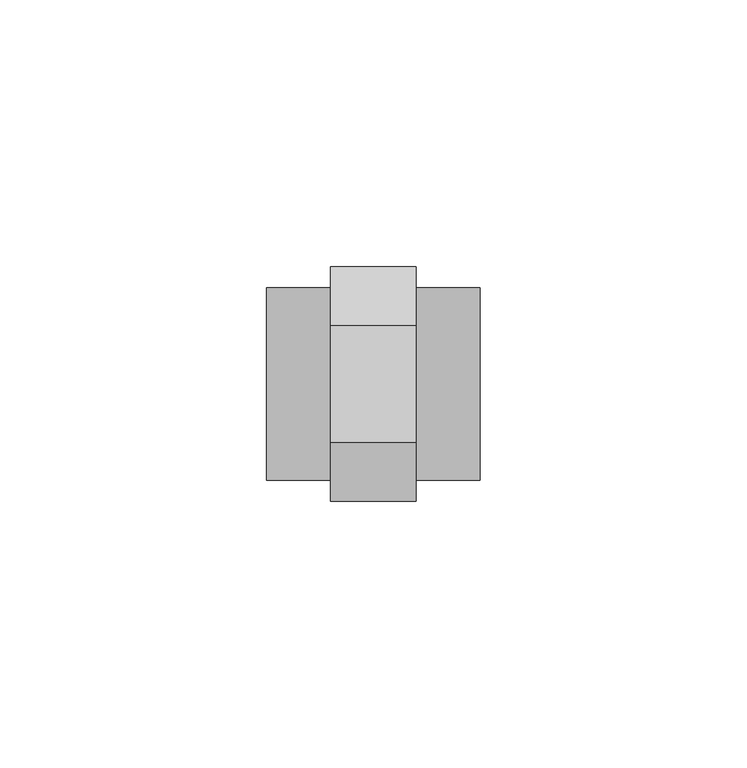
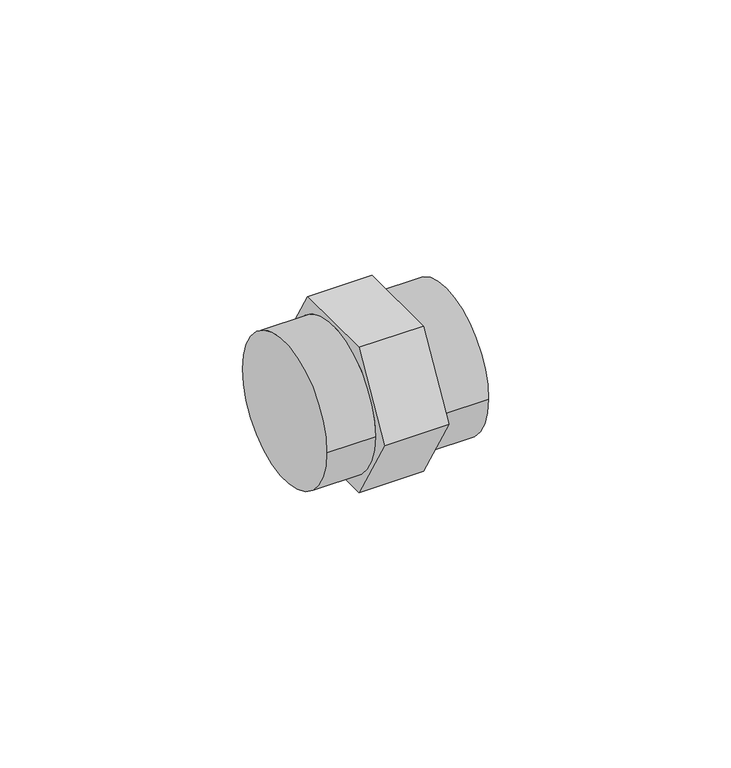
"""IFC4 building model written with IfcOpenShell, lengths in millimetres: pipe fitting geometry, 01101007 : Manguitos H/H."""

from ifc_helpers import new_model, si_unit, frame, origin, place, context, project, spatial, circle_curve, source, transform, mapped, element, save
from ifc_brep_helpers import plane_surface, cylinder_surface, advanced_brep


def pipe_fitting_64031ad3(model_context):
    return source(origin(), model_context, "Body", "AdvancedBrep", [
        advanced_brep(
        [(8.0, -10.9696551, 19.0), (8.0, -21.9393102, 0.0), (8.0, -10.9696551, -19.0), (8.0, 10.9696551, -19.0), (8.0, 21.9393102, 0.0), (8.0, 10.9696551, 19.0), (8.0, -18.05, 0.0), (8.0, 18.05, 0.0), (-8.0, -10.9696551, 19.0), (-8.0, 10.9696551, 19.0), (-8.0, 21.9393102, 0.0), (-8.0, 10.9696551, -19.0), (-8.0, -10.9696551, -19.0), (-8.0, -21.9393102, 0.0), (-8.0, 18.05, 0.0), (-8.0, -18.05, 0.0), (-20.0, -18.05, 0.0), (-20.0, 18.05, 0.0), (20.0, -18.05, 0.0), (20.0, 18.05, 0.0)],
        [
            (0, 1),
            (1, 2),
            (2, 3),
            (3, 4),
            (4, 5),
            (5, 0),
            (6, 7, circle_curve(frame((8.0, 0.0, 0.0), z_axis=(-1.0, 0.0, 0.0), x_axis=(0.0, 1.0, 0.0)), 18.05)),
            (7, 6, circle_curve(frame((8.0, 0.0, 0.0), z_axis=(-1.0, 0.0, 0.0), x_axis=(0.0, 1.0, 0.0)), 18.05)),
            (8, 9),
            (9, 10),
            (10, 11),
            (11, 12),
            (12, 13),
            (13, 8),
            (14, 15, circle_curve(frame((-8.0, 0.0, 0.0), z_axis=(1.0, 0.0, 0.0), x_axis=(0.0, 1.0, 0.0)), 18.05)),
            (15, 14, circle_curve(frame((-8.0, 0.0, 0.0), z_axis=(1.0, 0.0, 0.0), x_axis=(0.0, 1.0, 0.0)), 18.05)),
            (0, 8),
            (13, 1),
            (12, 2),
            (11, 3),
            (10, 4),
            (9, 5),
            (16, 17, circle_curve(frame((-20.0, 0.0, 0.0), z_axis=(-1.0, 0.0, 0.0), x_axis=(0.0, 1.0, 0.0)), 18.05)),
            (17, 16, circle_curve(frame((-20.0, 0.0, 0.0), z_axis=(-1.0, 0.0, 0.0), x_axis=(0.0, 1.0, 0.0)), 18.05)),
            (18, 19, circle_curve(frame((20.0, 0.0, 0.0), z_axis=(1.0, 0.0, 0.0), x_axis=(0.0, 1.0, 0.0)), 18.05)),
            (19, 18, circle_curve(frame((20.0, 0.0, 0.0), z_axis=(1.0, 0.0, 0.0), x_axis=(0.0, 1.0, 0.0)), 18.05)),
            (16, 15),
            (14, 17),
            (19, 7),
            (6, 18),
        ],
        [
            plane_surface(frame((8.0, -10.9696551, 19.0), z_axis=(1.0000000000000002, 0.0, 0.0), x_axis=(0.0, -0.5000000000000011, -0.8660254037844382))),
            plane_surface(frame((-8.0, -10.9696551, 19.0), z_axis=(-1.0000000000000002, 0.0, 0.0), x_axis=(0.0, 0.5000000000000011, 0.8660254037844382))),
            plane_surface(frame((8.0, -10.9696551, 19.0), z_axis=(0.0, -0.8660254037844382, 0.5000000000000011), x_axis=(-1.0, 0.0, 0.0))),
            plane_surface(frame((8.0, -21.9393102, 0.0), z_axis=(0.0, -0.8660254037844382, -0.5000000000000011), x_axis=(-1.0, 0.0, 0.0))),
            plane_surface(frame((8.0, -10.9696551, -19.0), z_axis=(0.0, 0.0, -1.0), x_axis=(-1.0, 0.0, 0.0))),
            plane_surface(frame((8.0, 10.9696551, -19.0), z_axis=(0.0, 0.8660254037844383, -0.5000000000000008), x_axis=(-1.0, 0.0, 0.0))),
            plane_surface(frame((8.0, 21.9393102, 0.0), z_axis=(0.0, 0.8660254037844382, 0.5000000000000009), x_axis=(-1.0, 0.0, 0.0))),
            plane_surface(frame((8.0, 10.9696551, 19.0), z_axis=(0.0, 0.0, 1.0), x_axis=(-1.0, 0.0, 0.0))),
            plane_surface(frame((-20.0, 0.0, 0.0), z_axis=(-1.0, 0.0, 0.0), x_axis=(0.0, 0.0, 1.0))),
            plane_surface(frame((20.0, 0.0, 0.0), z_axis=(1.0, 0.0, 0.0), x_axis=(0.0, 0.0, 1.0))),
            cylinder_surface(frame((-20.0, 0.0, 0.0), z_axis=(-1.0, 0.0, 0.0), x_axis=(0.0, 1.0, 0.0)), 18.05),
        ],
        [
            (0, [[1, 2, 3, 4, 5, 6], [7, 8]]),
            (1, [[9, 10, 11, 12, 13, 14], [15, 16]]),
            (2, [[-1, 17, -14, 18]]),
            (3, [[-2, -18, -13, 19]]),
            (4, [[-3, -19, -12, 20]]),
            (5, [[-4, -20, -11, 21]]),
            (6, [[-5, -21, -10, 22]]),
            (7, [[-6, -22, -9, -17]]),
            (8, [[23, 24]]),
            (9, [[25, 26]]),
            (10, [[-23, 27, -15, 28]]),
            (10, [[-26, 29, -7, 30]]),
            (10, [[-24, -28, -16, -27]]),
            (10, [[-25, -30, -8, -29]]),
        ],
    ),
    ])


if __name__ == "__main__":
    model = new_model("IFC4")
    model_context = context("Model", 3, world=origin())
    ifc_project = project(units=[si_unit("LENGTHUNIT", "METRE", prefix="MILLI")], contexts=[model_context])
    site = spatial("IfcSite", under=ifc_project)
    building = spatial("IfcBuilding", under=site)
    placement = place(None, origin())
    pipe_fitting_shape = pipe_fitting_64031ad3(model_context)
    element("IfcPipeFitting", 1, ObjectType="01101007 : Manguitos H/H", at=placement, inside=building, context=model_context, shape_type="MappedRepresentation", body=[
        mapped(pipe_fitting_shape, transform((0.0, 0.0, 0.0), x_axis=(1.0, 0.0, 0.0), y_axis=(0.0, 1.0, 0.0), z_axis=(0.0, 0.0, 1.0))),
    ])
    save(model, "model.ifc")
